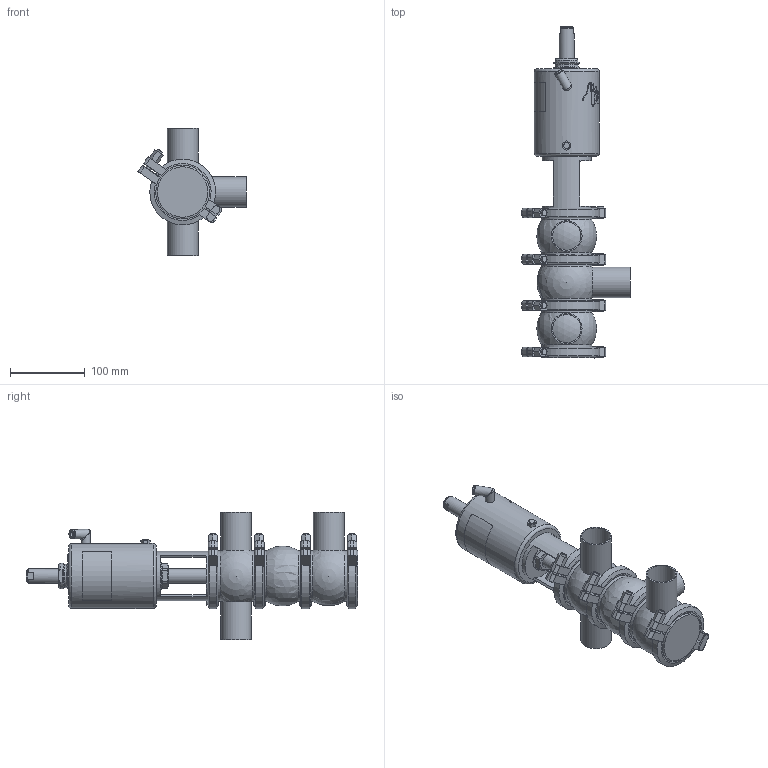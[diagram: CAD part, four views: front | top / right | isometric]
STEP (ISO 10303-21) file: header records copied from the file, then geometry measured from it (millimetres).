
FILE_DESCRIPTION (( 'STEP AP214' ), '1' );
FILE_NAME ('INNOVA L P W DIN 040 T1 AS NC_10.241.16.0016.STEP', '2024-08-07T07:40:02', ( '' ), ( '' ), 'SwSTEP 2.0', 'SolidWorks 2023', '' );
FILE_SCHEMA (( 'AUTOMOTIVE_DESIGN' ));
Length unit declared in the file: millimetre
Products named in the file (7): 10.241.15.0001_DIN 040; 10.240.15.0007_DIN 040; 10.240.15.0014_T1 AS P180; 10.240.15.0006_DIN 040; INNOVA L P W DIN 040 T1 AS NC_10.241.16.0016; 10.240.15.0001_DN 040; 10.240.15.0010_DN 040
Assembly tree (10 placements, depth 2):
  INNOVA L P W DIN 040 T1 AS NC_10.241.16.0016
    10.240.15.0007_DIN 040
    10.240.15.0006_DIN 040  x2
    10.240.15.0010_DN 040
    10.240.15.0014_T1 AS P180
    10.240.15.0001_DN 040  x4
    10.241.15.0001_DIN 040
Bounding box: 145.13 x 444.07 x 170 mm (x, y, z)
Volume: 1819646.6 mm3; surface area: 288138 mm2
Topology: 11 solids, 11 shells, 536 faces, 1404 edges, 914 vertices
Faces by surface type: plane 261, cylinder 138, bspline 80, cone 46, sphere 7, torus 4
Full cylindrical faces by diameter (mm): 6.15 x1, 8 x9, 8.5 x1, 10.5 x1, 12.5 x3, 16 x1, 20 x2, 31 x1, 34.5 x2, 36.5 x1, 38 x4, 41 x4, 66 x1, 67.5 x7, 79.5 x8, 87 x1
Entity records: 19653 total; most frequent: CARTESIAN_POINT 10224, ORIENTED_EDGE 1624, DIRECTION 1275, EDGE_CURVE 812, VERTEX_POINT 563, AXIS2_PLACEMENT_3D 493, EDGE_LOOP 431, FACE_OUTER_BOUND 386
